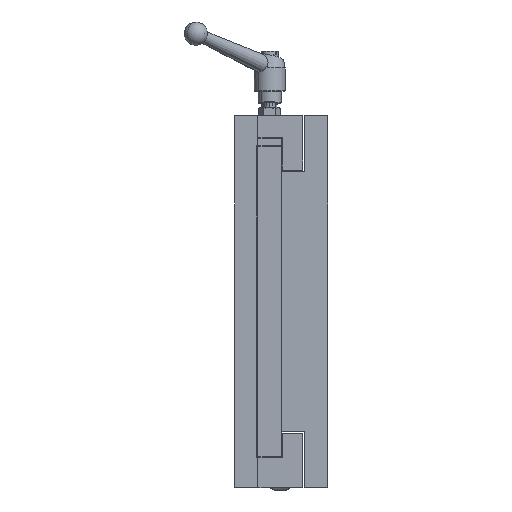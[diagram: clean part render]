
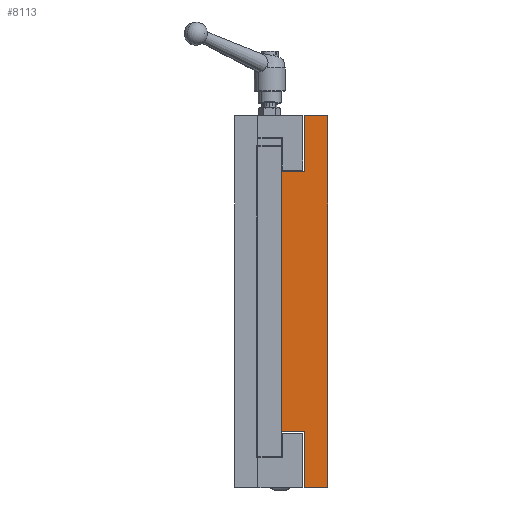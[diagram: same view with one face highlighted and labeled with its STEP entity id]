
A CAD part, left-side view. The second image highlights one B-rep face of the part: STEP entity #8113.
In plain terms, the highlighted planar face has unit normal (-1, 0, 0).
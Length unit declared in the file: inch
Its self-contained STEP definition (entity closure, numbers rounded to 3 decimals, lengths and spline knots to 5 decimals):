
#100 = CARTESIAN_POINT ( 'NONE',  ( 0., 0., -6. ) ) ;
#1017 = VECTOR ( 'NONE', #3415, 39.37008 ) ;
#1025 = VECTOR ( 'NONE', #3448, 39.37008 ) ;
#1028 = VECTOR ( 'NONE', #3446, 39.37008 ) ;
#1029 = VECTOR ( 'NONE', #3454, 39.37008 ) ;
#1030 = VECTOR ( 'NONE', #3452, 39.37008 ) ;
#1031 = VECTOR ( 'NONE', #3456, 39.37008 ) ;
#1032 = VECTOR ( 'NONE', #3458, 39.37008 ) ;
#1034 = VECTOR ( 'NONE', #3461, 39.37008 ) ;
#3404 = LINE ( 'NONE', #3414, #1017 ) ;
#3414 = CARTESIAN_POINT ( 'NONE',  ( 0., 1.5, 6. ) ) ;
#3415 = DIRECTION ( 'NONE',  ( 0., 0., 1. ) ) ;
#3427 = LINE ( 'NONE', #3447, #1025 ) ;
#3432 = LINE ( 'NONE', #3453, #1029 ) ;
#3443 = LINE ( 'NONE', #3445, #1028 ) ;
#3444 = LINE ( 'NONE', #3455, #1031 ) ;
#3445 = CARTESIAN_POINT ( 'NONE',  ( 0., 1.5, -4.1875 ) ) ;
#3446 = DIRECTION ( 'NONE',  ( 0., -1., 0. ) ) ;
#3447 = CARTESIAN_POINT ( 'NONE',  ( 0., 0.75, -6. ) ) ;
#3448 = DIRECTION ( 'NONE',  ( 0., 0., -1. ) ) ;
#3449 = LINE ( 'NONE', #3451, #1030 ) ;
#3450 = LINE ( 'NONE', #3457, #1032 ) ;
#3451 = CARTESIAN_POINT ( 'NONE',  ( 0., 1.5, -6. ) ) ;
#3452 = DIRECTION ( 'NONE',  ( 0., 1., 0. ) ) ;
#3453 = CARTESIAN_POINT ( 'NONE',  ( 0., 0., 6. ) ) ;
#3454 = DIRECTION ( 'NONE',  ( 0., 0., -1. ) ) ;
#3455 = CARTESIAN_POINT ( 'NONE',  ( 0., 1.5, 6. ) ) ;
#3456 = DIRECTION ( 'NONE',  ( 0., -1., 0. ) ) ;
#3457 = CARTESIAN_POINT ( 'NONE',  ( 0., 0.75, 6. ) ) ;
#3458 = DIRECTION ( 'NONE',  ( 0., 0., -1. ) ) ;
#3459 = LINE ( 'NONE', #3460, #1034 ) ;
#3460 = CARTESIAN_POINT ( 'NONE',  ( 0., 1.5, 4.1875 ) ) ;
#3461 = DIRECTION ( 'NONE',  ( 0., 1., 0. ) ) ;
#4917 = CARTESIAN_POINT ( 'NONE',  ( 0., 0.75, 4.1875 ) ) ;
#4921 = CARTESIAN_POINT ( 'NONE',  ( 0., 0.75, -6. ) ) ;
#4922 = CARTESIAN_POINT ( 'NONE',  ( 0., 0.75, 6. ) ) ;
#4925 = CARTESIAN_POINT ( 'NONE',  ( 0., 0.75, -4.1875 ) ) ;
#4928 = CARTESIAN_POINT ( 'NONE',  ( 0., 0., 6. ) ) ;
#4930 = CARTESIAN_POINT ( 'NONE',  ( 0., 1.5, 4.1875 ) ) ;
#4935 = CARTESIAN_POINT ( 'NONE',  ( 0., 1.5, -4.1875 ) ) ;
#6865 = EDGE_LOOP ( 'NONE', ( #8383, #8382, #8381, #8380, #8379, #8373, #8375, #8378 ) ) ;
#7315 = PLANE ( 'NONE',  #7959 ) ;
#7317 = CARTESIAN_POINT ( 'NONE',  ( 0., 0., 6. ) ) ;
#7321 = FACE_OUTER_BOUND ( 'NONE', #6865, .T. ) ;
#7323 = DIRECTION ( 'NONE',  ( 1., 0., 0. ) ) ;
#7324 = DIRECTION ( 'NONE',  ( 0., 0., -1. ) ) ;
#7959 = AXIS2_PLACEMENT_3D ( 'NONE', #7317, #7323, #7324 ) ;
#8113 = ADVANCED_FACE ( 'NONE', ( #7321 ), #7315, .F. ) ;
#8373 = ORIENTED_EDGE ( 'NONE', *, *, #9553, .T. ) ;
#8375 = ORIENTED_EDGE ( 'NONE', *, *, #9554, .T. ) ;
#8378 = ORIENTED_EDGE ( 'NONE', *, *, #9538, .F. ) ;
#8379 = ORIENTED_EDGE ( 'NONE', *, *, #9552, .F. ) ;
#8380 = ORIENTED_EDGE ( 'NONE', *, *, #9551, .F. ) ;
#8381 = ORIENTED_EDGE ( 'NONE', *, *, #9550, .F. ) ;
#8382 = ORIENTED_EDGE ( 'NONE', *, *, #9549, .T. ) ;
#8383 = ORIENTED_EDGE ( 'NONE', *, *, #9548, .T. ) ;
#8630 = VERTEX_POINT ( 'NONE', #4917 ) ;
#8634 = VERTEX_POINT ( 'NONE', #4921 ) ;
#8635 = VERTEX_POINT ( 'NONE', #4922 ) ;
#8638 = VERTEX_POINT ( 'NONE', #4925 ) ;
#8641 = VERTEX_POINT ( 'NONE', #4928 ) ;
#8643 = VERTEX_POINT ( 'NONE', #4930 ) ;
#8648 = VERTEX_POINT ( 'NONE', #4935 ) ;
#8746 = VERTEX_POINT ( 'NONE', #100 ) ;
#9538 = EDGE_CURVE ( 'NONE', #8648, #8643, #3404, .T. ) ;
#9548 = EDGE_CURVE ( 'NONE', #8648, #8638, #3443, .T. ) ;
#9549 = EDGE_CURVE ( 'NONE', #8638, #8634, #3427, .T. ) ;
#9550 = EDGE_CURVE ( 'NONE', #8746, #8634, #3449, .T. ) ;
#9551 = EDGE_CURVE ( 'NONE', #8641, #8746, #3432, .T. ) ;
#9552 = EDGE_CURVE ( 'NONE', #8635, #8641, #3444, .T. ) ;
#9553 = EDGE_CURVE ( 'NONE', #8635, #8630, #3450, .T. ) ;
#9554 = EDGE_CURVE ( 'NONE', #8630, #8643, #3459, .T. ) ;
